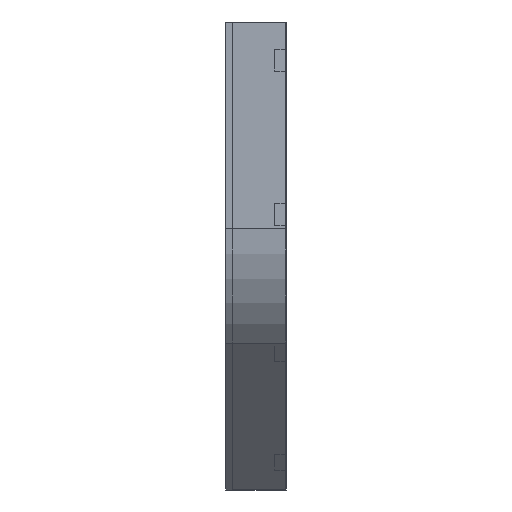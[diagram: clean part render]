
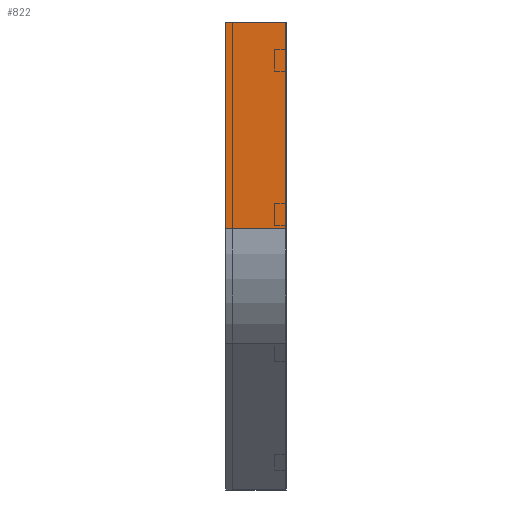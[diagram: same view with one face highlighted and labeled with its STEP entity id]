
A CAD part, left-side view. The second image highlights one B-rep face of the part: STEP entity #822.
In plain terms, the highlighted planar face has unit normal (-1, 0, 0).
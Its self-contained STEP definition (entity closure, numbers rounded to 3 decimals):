
#75 = PLANE ( 'NONE',  #1406 ) ;
#77 = VERTEX_POINT ( 'NONE', #326 ) ;
#79 = DIRECTION ( 'NONE',  ( 0., 0., -1. ) ) ;
#126 = LINE ( 'NONE', #675, #635 ) ;
#147 = DIRECTION ( 'NONE',  ( 0., -1., 0. ) ) ;
#244 = LINE ( 'NONE', #370, #1697 ) ;
#326 = CARTESIAN_POINT ( 'NONE',  ( 0., 0., -381.371 ) ) ;
#353 = VECTOR ( 'NONE', #685, 1000. ) ;
#370 = CARTESIAN_POINT ( 'NONE',  ( 0., 112.5, 0. ) ) ;
#450 = CARTESIAN_POINT ( 'NONE',  ( 0., 0., -381.371 ) ) ;
#459 = VERTEX_POINT ( 'NONE', #879 ) ;
#478 = ORIENTED_EDGE ( 'NONE', *, *, #1209, .T. ) ;
#487 = VERTEX_POINT ( 'NONE', #999 ) ;
#496 = ORIENTED_EDGE ( 'NONE', *, *, #1477, .T. ) ;
#510 = CARTESIAN_POINT ( 'NONE',  ( 0., 0., 0. ) ) ;
#540 = CARTESIAN_POINT ( 'NONE',  ( 0., 0., 0. ) ) ;
#582 = ORIENTED_EDGE ( 'NONE', *, *, #1599, .F. ) ;
#635 = VECTOR ( 'NONE', #1846, 1000. ) ;
#675 = CARTESIAN_POINT ( 'NONE',  ( 0., 0., 0. ) ) ;
#677 = VERTEX_POINT ( 'NONE', #1269 ) ;
#685 = DIRECTION ( 'NONE',  ( 0., 0., -1. ) ) ;
#822 = ADVANCED_FACE ( 'NONE', ( #1214 ), #75, .F. ) ;
#841 = VECTOR ( 'NONE', #147, 1000. ) ;
#879 = CARTESIAN_POINT ( 'NONE',  ( 0., 0., 0. ) ) ;
#999 = CARTESIAN_POINT ( 'NONE',  ( 0., 112.5, 0. ) ) ;
#1102 = LINE ( 'NONE', #540, #353 ) ;
#1173 = LINE ( 'NONE', #450, #841 ) ;
#1192 = DIRECTION ( 'NONE',  ( 0., 0., -1. ) ) ;
#1205 = EDGE_CURVE ( 'NONE', #487, #459, #126, .T. ) ;
#1209 = EDGE_CURVE ( 'NONE', #677, #77, #1173, .T. ) ;
#1214 = FACE_OUTER_BOUND ( 'NONE', #1570, .T. ) ;
#1269 = CARTESIAN_POINT ( 'NONE',  ( 0., 112.5, -381.371 ) ) ;
#1406 = AXIS2_PLACEMENT_3D ( 'NONE', #510, #1493, #1192 ) ;
#1477 = EDGE_CURVE ( 'NONE', #487, #677, #244, .T. ) ;
#1493 = DIRECTION ( 'NONE',  ( 1., 0., 0. ) ) ;
#1509 = ORIENTED_EDGE ( 'NONE', *, *, #1205, .F. ) ;
#1570 = EDGE_LOOP ( 'NONE', ( #582, #1509, #496, #478 ) ) ;
#1599 = EDGE_CURVE ( 'NONE', #459, #77, #1102, .T. ) ;
#1697 = VECTOR ( 'NONE', #79, 1000. ) ;
#1846 = DIRECTION ( 'NONE',  ( 0., -1., 0. ) ) ;
